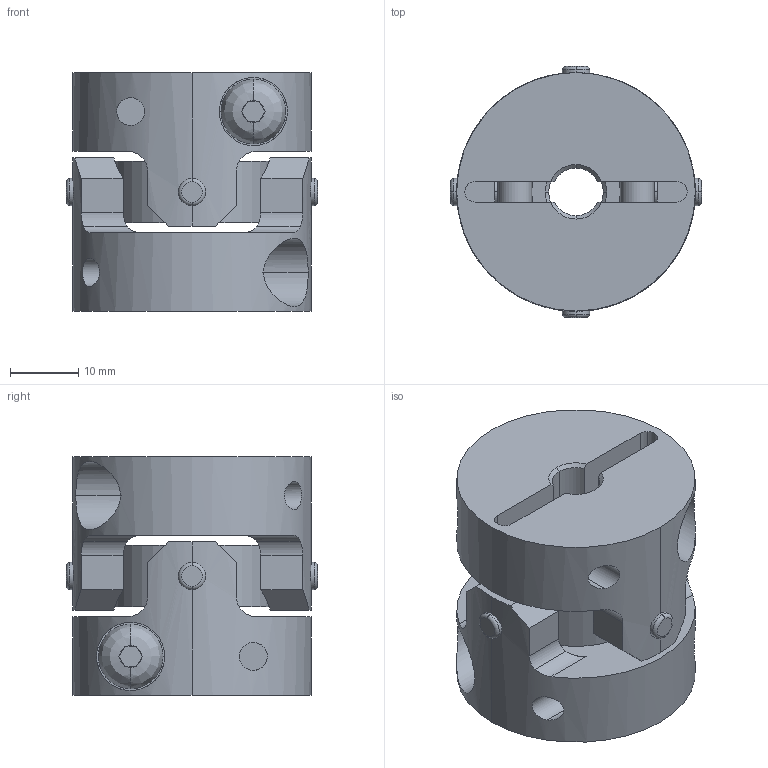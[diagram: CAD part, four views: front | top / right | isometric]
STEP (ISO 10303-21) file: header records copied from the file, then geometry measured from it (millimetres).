
FILE_DESCRIPTION((''),'2;1');
FILE_NAME('UA-35C-7×8.stp','2013-11-12T15:43:54',(''),(''),'AutoCAD STEP 2000i','AutoCAD 2000i',', , ');
FILE_SCHEMA(('CONFIG_CONTROL_DESIGN'));
Length unit declared in the file: millimetre
Products named in the file (6): UA-35C-8×8; 忣兜1; UA-3502-D08-1; BTN-M5; UA-3502-D08; UA35-SEN
Assembly tree (6 placements, depth 3):
  UA-35C-8×8
    忣兜1
    UA-3502-D08-1
      BTN-M5
    UA-3502-D08
      BTN-M5
    UA35-SEN
Bounding box: 36.83 x 36.83 x 35 mm (x, y, z)
Volume: 23454.6 mm3; surface area: 12057.5 mm2
Topology: 1 solids, 1 shells, 250 faces, 646 edges, 408 vertices
Faces by surface type: plane 122, cylinder 96, cone 16, bspline 8, torus 8
Entity records: 9647 total; most frequent: CARTESIAN_POINT 3391, ORIENTED_EDGE 1292, DIRECTION 1288, EDGE_CURVE 646, AXIS2_PLACEMENT_3D 497, VERTEX_POINT 408, VECTOR 294, LINE 294
